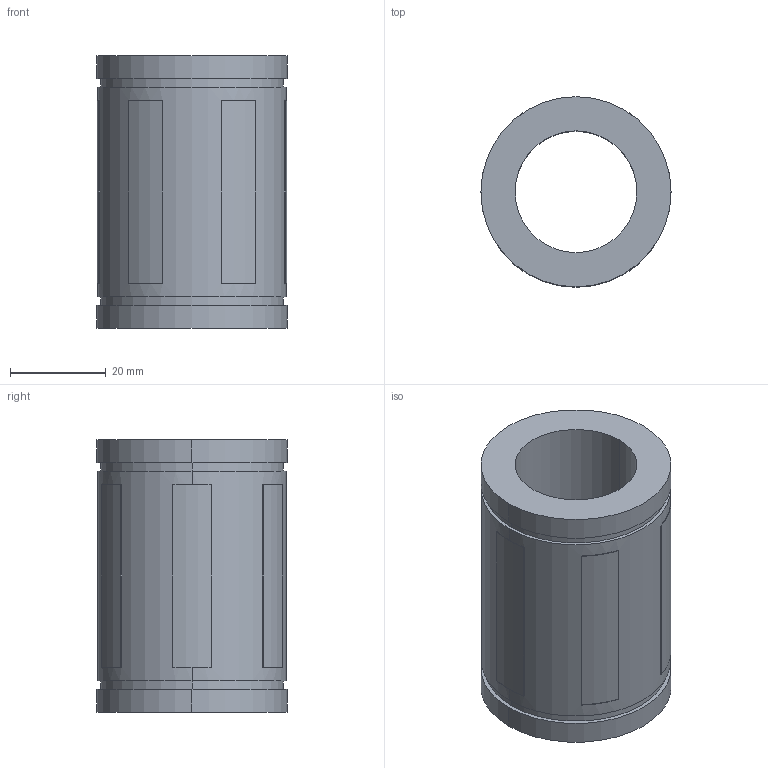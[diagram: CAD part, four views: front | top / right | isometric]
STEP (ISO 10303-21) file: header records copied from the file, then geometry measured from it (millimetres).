
FILE_DESCRIPTION((''),'2;1');
FILE_NAME('C:\Documents and Settings\ｿﾀﾀ蠑ｷ1\ｹﾙﾅﾁ ﾈｭｸ饅\ｺﾎﾇｰﾆﾄﾀﾏ\ﾁｦﾇｰ\LMBS__UU\LMBS16UU.stp','2005-06-15T13:59:20',('ｿﾀﾀ蠑ｷ1'),(''),'Autodesk Inventor 9','Autodesk Inventor 9','');
FILE_SCHEMA(('AUTOMOTIVE_DESIGN { 1 0 10303 214 1 1 1 1 }'));
Length unit declared in the file: millimetre
Products named in the file (1): LMBS__
Bounding box: 39.69 x 39.69 x 56.9 mm (x, y, z)
Volume: 40674.2 mm3; surface area: 13494.2 mm2
Topology: 1 solids, 1 shells, 48 faces, 114 edges, 76 vertices
Faces by surface type: plane 28, cylinder 16, bspline 4
Entity records: 1463 total; most frequent: CARTESIAN_POINT 279, DIRECTION 256, ORIENTED_EDGE 228, EDGE_CURVE 114, AXIS2_PLACEMENT_3D 97, VERTEX_POINT 76, VECTOR 62, LINE 62
